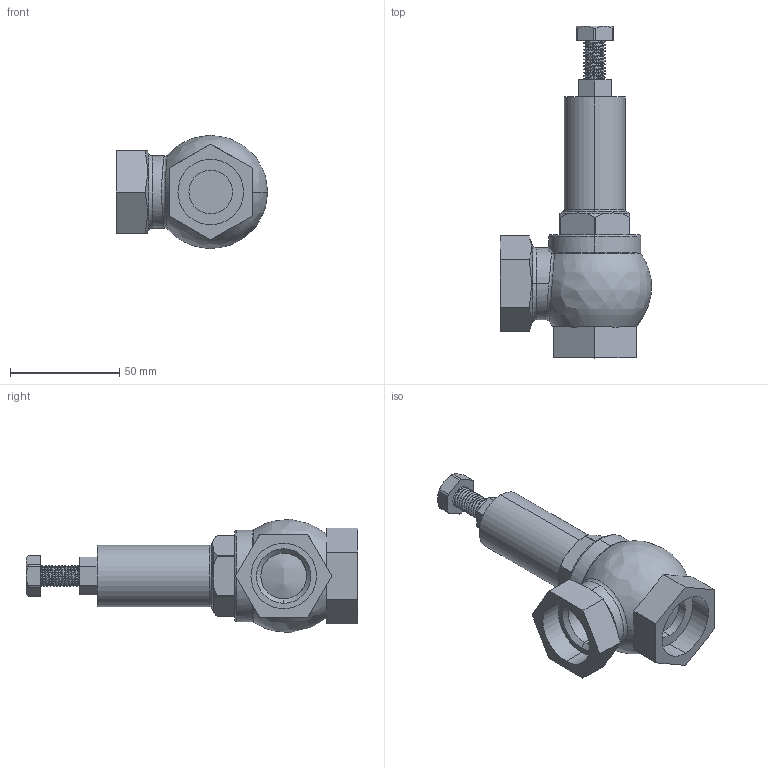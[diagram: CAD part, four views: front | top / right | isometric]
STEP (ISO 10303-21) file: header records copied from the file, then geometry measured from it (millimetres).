
FILE_DESCRIPTION (( 'STEP AP214' ), '1' );
FILE_NAME ('Êëàïàí ïðåäîõðàíèòåëüíûé TSV-25.STEP', '2026-10-08T06:34:46', ( '' ), ( '' ), 'SwSTEP 2.0', 'SolidWorks 2023', '' );
FILE_SCHEMA (( 'AUTOMOTIVE_DESIGN' ));
Length unit declared in the file: millimetre
Products named in the file (1): Клапан предохранительный TSV-25
Bounding box: 69.25 x 152 x 52 mm (x, y, z)
Volume: 141411.9 mm3; surface area: 25459 mm2
Topology: 1 solids, 1 shells, 159 faces, 418 edges, 269 vertices
Faces by surface type: cylinder 53, plane 49, cone 33, bspline 15, torus 9
Entity records: 11492 total; most frequent: CARTESIAN_POINT 7878, ORIENTED_EDGE 836, DIRECTION 665, EDGE_CURVE 418, VERTEX_POINT 269, AXIS2_PLACEMENT_3D 261, EDGE_LOOP 167, FACE_OUTER_BOUND 159
